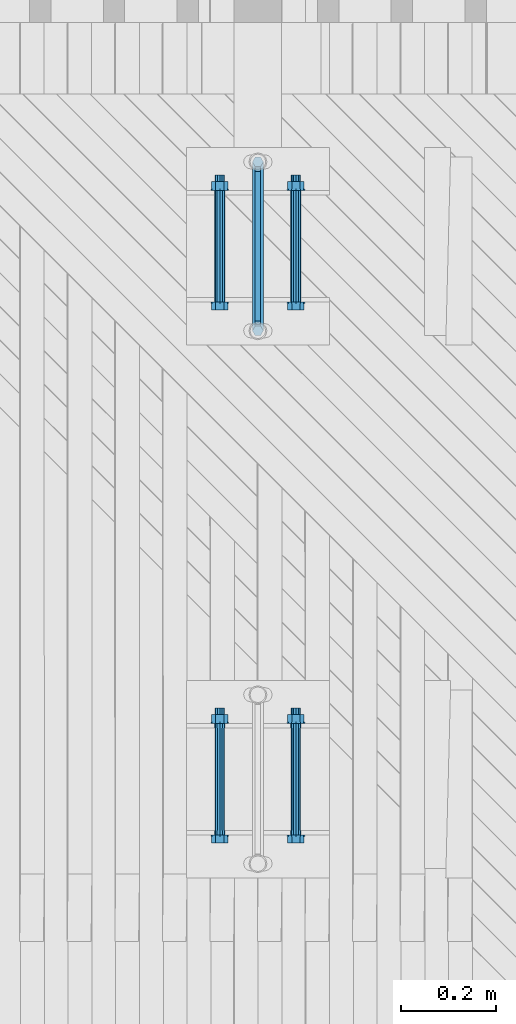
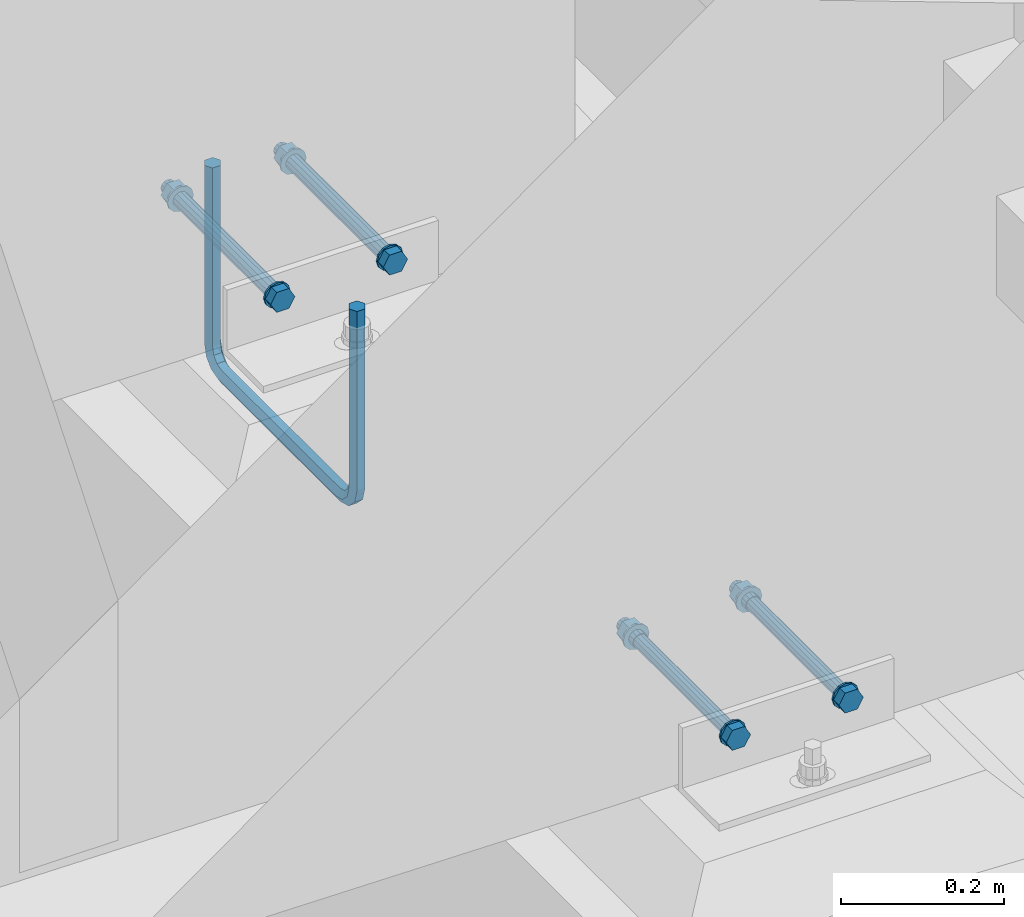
# One storey, part 3 of 52: 2 mechanical fasteners, 2 reinforcing bars.
"""IFC2X3 building model written with IfcOpenShell, lengths in millimetres."""

from ifc_helpers import new_model, si_unit, frame, origin_with_axes, place, context, subcontext, project, spatial, faceted_brep, source, transform, mapped, material, type_object, element, save


model = new_model("IFC2X3")

# Units and contexts
model_context = context("Model", 3, precision=1e-05, world=origin_with_axes())
body_context = subcontext(model_context, "Body", "Model", "MODEL_VIEW")
ifc_project = project(units=[si_unit("LENGTHUNIT", "METRE", prefix="MILLI"), si_unit("AREAUNIT", "SQUARE_METRE"), si_unit("VOLUMEUNIT", "CUBIC_METRE"), si_unit("MASSUNIT", "GRAM", prefix="KILO"), si_unit("TIMEUNIT", "SECOND"), si_unit("PLANEANGLEUNIT", "RADIAN"), si_unit("SOLIDANGLEUNIT", "STERADIAN"), si_unit("THERMODYNAMICTEMPERATUREUNIT", "DEGREE_CELSIUS"), si_unit("LUMINOUSINTENSITYUNIT", "LUMEN")], contexts=[model_context])

# Site, building, storey
site_placement = place(None, origin_with_axes())
site = spatial("IfcSite", under=ifc_project, at=site_placement, Name="Undefined", CompositionType="ELEMENT")
building_placement = place(site_placement, origin_with_axes())
building = spatial("IfcBuilding", under=site, at=building_placement, Name="Undefined", CompositionType="ELEMENT")
storey_placement = place(building_placement, origin_with_axes())
storey = spatial("IfcBuildingStorey", under=building, at=storey_placement, Name="Undefined", CompositionType="ELEMENT", Elevation=0.0)

# Reinforcing bars
ifc_material_1 = material(Name="A500HW")
shared_shape_1 = source(origin_with_axes(), body_context, "Body", "Brep", [
    faceted_brep([(9.95929214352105, -5.74999999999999, -1.31778448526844e-16), (9.95929214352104, 5.75000000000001, -1.31778448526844e-16), (-4.46864767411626e-15, 11.5, 5.31556664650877e-32), (-9.95929214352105, 5.75, 1.31778448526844e-16), (-9.95929214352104, -5.75, 1.31778448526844e-16), (0.0, -11.5, 0.0), (-9.95929214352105, -5.75, -268.5), (-3.5527136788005e-15, -11.5, -268.5), (-9.95929214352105, 5.75, -268.5), (-8.02136135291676e-15, 11.5, -268.5), (9.95929214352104, 5.75000000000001, -268.5), (9.95929214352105, -5.74999999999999, -268.5), (-4.40480021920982, -5.75, -289.229646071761), (4.22019978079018, -11.5, -284.25), (-4.40480021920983, 5.75, -289.229646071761), (4.22019978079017, 11.5, -284.25), (12.8451997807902, 5.75000000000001, -279.27035392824), (12.8451997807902, -5.74999999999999, -279.27035392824), (10.7703539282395, -5.75, -304.40480021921), (15.75, -11.5, -295.77980021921), (10.7703539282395, 5.75, -304.40480021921), (15.75, 11.5, -295.77980021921), (20.7296460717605, 5.75000000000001, -287.15480021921), (20.7296460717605, -5.74999999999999, -287.15480021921), (31.5, -5.75, -309.959292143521), (31.5, -11.5, -300.0), (31.5, 5.75, -309.959292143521), (31.5, 11.5, -300.0), (31.5, 5.75000000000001, -290.040707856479), (31.5, -5.74999999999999, -290.040707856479), (323.5, -5.75, -309.959292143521), (323.5, -11.5, -300.0), (323.5, 5.75, -309.959292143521), (323.5, 11.5, -300.0), (323.5, 5.75000000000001, -290.040707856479), (323.5, -5.74999999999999, -290.040707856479), (344.229646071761, -5.75, -304.40480021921), (339.25, -11.5, -295.77980021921), (344.229646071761, 5.75, -304.40480021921), (339.25, 11.5, -295.77980021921), (334.270353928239, 5.75000000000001, -287.15480021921), (334.270353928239, -5.74999999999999, -287.15480021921), (359.40480021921, -5.75, -289.229646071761), (350.77980021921, -11.5, -284.25), (359.40480021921, 5.75, -289.229646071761), (350.77980021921, 11.5, -284.25), (342.15480021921, 5.75000000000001, -279.27035392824), (342.15480021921, -5.74999999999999, -279.27035392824), (364.959292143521, -5.75, -268.5), (355.0, -11.5, -268.5), (364.959292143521, 5.75, -268.5), (355.0, 11.5, -268.5), (345.040707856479, 5.75000000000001, -268.5), (345.040707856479, -5.74999999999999, -268.5), (364.959292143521, -5.75, 0.0), (355.0, -11.5, 0.0), (364.959292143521, 5.75, 0.0), (355.0, 11.5, 0.0), (345.040707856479, 5.75000000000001, 0.0), (345.040707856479, -5.74999999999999, 0.0)], [[[0, 1, 2, 3, 4, 5]], [[5, 4, 6, 7]], [[4, 3, 8, 6]], [[3, 2, 9, 8]], [[2, 1, 10, 9]], [[1, 0, 11, 10]], [[0, 5, 7, 11]], [[7, 6, 12, 13]], [[6, 8, 14, 12]], [[8, 9, 15, 14]], [[9, 10, 16, 15]], [[10, 11, 17, 16]], [[11, 7, 13, 17]], [[13, 12, 18, 19]], [[12, 14, 20, 18]], [[14, 15, 21, 20]], [[15, 16, 22, 21]], [[16, 17, 23, 22]], [[17, 13, 19, 23]], [[19, 18, 24, 25]], [[18, 20, 26, 24]], [[20, 21, 27, 26]], [[21, 22, 28, 27]], [[22, 23, 29, 28]], [[23, 19, 25, 29]], [[25, 24, 30, 31]], [[24, 26, 32, 30]], [[26, 27, 33, 32]], [[27, 28, 34, 33]], [[28, 29, 35, 34]], [[29, 25, 31, 35]], [[31, 30, 36, 37]], [[30, 32, 38, 36]], [[32, 33, 39, 38]], [[33, 34, 40, 39]], [[34, 35, 41, 40]], [[35, 31, 37, 41]], [[37, 36, 42, 43]], [[36, 38, 44, 42]], [[38, 39, 45, 44]], [[39, 40, 46, 45]], [[40, 41, 47, 46]], [[41, 37, 43, 47]], [[43, 42, 48, 49]], [[42, 44, 50, 48]], [[44, 45, 51, 50]], [[45, 46, 52, 51]], [[46, 47, 53, 52]], [[47, 43, 49, 53]], [[49, 48, 54, 55]], [[48, 50, 56, 54]], [[50, 51, 57, 56]], [[51, 52, 58, 57]], [[52, 53, 59, 58]], [[53, 49, 55, 59]], [[55, 54, 56, 57, 58, 59]]]),
])
for number, where, z_axis, x_axis, name in (
    (1, (16000.0, 4222.50000000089, 1615.32999999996), (0.0, 0.0, 1.0), (0.0, -1.0, 0.0), "REBAR"),
    (2, (16000.0, 4222.50000000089, 1615.32999999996), (0.0, 0.0, 1.0), (0.0, -1.0, 0.0), "REBAR"),
):
    element("IfcReinforcingBar", number, at=place(storey_placement, frame(where, z_axis=z_axis, x_axis=x_axis)), inside=storey, material=ifc_material_1, Name=name, BarRole="NOTDEFINED", CrossSectionArea=0.0, NominalDiameter=23.0, context=body_context, shape_type="MappedRepresentation", body=[
        mapped(shared_shape_1, transform((0.0, 0.0, 420.0))),
    ])

# Mechanical fasteners
ifc_material_2 = material(Name="Undefined")
mechanical_fastener_type = type_object("IfcMechanicalFastenerType", Name="Bolt assembly")
shared_shape_2 = source(origin_with_axes(), body_context, "Body", "Brep", [
    faceted_brep([(17.3205080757, -238.7, 0.0), (8.66025403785, -238.7, 15.0000000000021), (-8.66025403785, -238.7, 15.0000000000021), (-17.3205080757, -238.7, 0.0), (-8.66025403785, -238.7, -15.0000000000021), (8.66025403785, -238.7, -15.0000000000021), (8.66025403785, -225.5, -15.0000000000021), (-8.66025403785, -225.5, -15.0000000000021), (-17.3205080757, -225.5, 0.0), (-8.66025403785, -225.5, 15.0000000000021), (8.66025403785, -225.5, 15.0000000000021), (17.3205080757, -225.5, 0.0), (10.0, -225.5, 0.0), (8.66025403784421, -225.5, 5.0000000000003), (4.9999999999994, -225.5, 8.66025403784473), (-1.03633598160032e-12, -225.5, 10.0), (-5.00000000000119, -225.5, 8.6602540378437), (-8.66025403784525, -225.5, 4.99999999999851), (-10.0, -225.5, -2.07267196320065e-12), (-8.66025403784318, -225.5, -5.00000000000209), (-4.99999999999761, -225.5, -8.66025403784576), (3.09790571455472e-12, -225.5, -10.0), (5.00000000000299, -225.5, -8.66025403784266), (8.66025403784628, -225.5, -4.99999999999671), (8.66025403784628, 44.5, -4.99999999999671), (5.00000000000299, 44.5, -8.66025403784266), (3.09790571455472e-12, 44.5, -10.0), (-4.99999999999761, 44.5, -8.66025403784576), (-8.66025403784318, 44.5, -5.00000000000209), (-10.0, 44.5, -2.07267196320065e-12), (-8.66025403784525, 44.5, 4.99999999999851), (-5.00000000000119, 44.5, 8.6602540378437), (-1.03633598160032e-12, 44.5, 10.0), (4.9999999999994, 44.5, 8.66025403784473), (8.66025403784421, 44.5, 5.0000000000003), (10.0, 44.5, 0.0), (18.5, -225.5, 0.0), (16.0214699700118, -225.5, 9.25000000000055), (9.2499999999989, -225.5, 16.0214699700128), (-1.9172215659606e-12, -225.5, 18.5), (-9.25000000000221, -225.5, 16.0214699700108), (-16.0214699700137, -225.5, 9.24999999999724), (-18.5, -225.5, -3.83444313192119e-12), (-16.0214699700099, -225.5, -9.25000000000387), (-9.24999999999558, -225.5, -16.0214699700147), (5.73112557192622e-12, -225.5, -18.5), (9.25000000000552, -225.5, -16.0214699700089), (16.0214699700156, -225.5, -9.24999999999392), (16.0214699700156, -222.5, -9.24999999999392), (9.25000000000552, -222.5, -16.0214699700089), (5.73112557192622e-12, -222.5, -18.5), (-9.24999999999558, -222.5, -16.0214699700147), (-16.0214699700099, -222.5, -9.25000000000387), (-18.5, -222.5, -3.83444313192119e-12), (-16.0214699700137, -222.5, 9.24999999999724), (-9.25000000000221, -222.5, 16.0214699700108), (-1.9172215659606e-12, -222.5, 18.5), (9.2499999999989, -222.5, 16.0214699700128), (16.0214699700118, -222.5, 9.25000000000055), (18.5, -222.5, 0.0), (18.5, 12.5, 0.0), (16.0214699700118, 12.5, 9.25000000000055), (9.2499999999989, 12.5, 16.0214699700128), (-1.9172215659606e-12, 12.5, 18.5), (-9.25000000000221, 12.5, 16.0214699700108), (-16.0214699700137, 12.5, 9.24999999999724), (-18.5, 12.5, -3.83444313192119e-12), (-16.0214699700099, 12.5, -9.25000000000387), (-9.24999999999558, 12.5, -16.0214699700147), (5.73112557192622e-12, 12.5, -18.5), (9.25000000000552, 12.5, -16.0214699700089), (16.0214699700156, 12.5, -9.24999999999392), (16.0214699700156, 15.5, -9.24999999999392), (9.25000000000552, 15.5, -16.0214699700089), (5.73112557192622e-12, 15.5, -18.5), (-9.24999999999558, 15.5, -16.0214699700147), (-16.0214699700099, 15.5, -9.25000000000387), (-18.5, 15.5, -3.83444313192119e-12), (-16.0214699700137, 15.5, 9.24999999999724), (-9.25000000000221, 15.5, 16.0214699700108), (-1.9172215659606e-12, 15.5, 18.5), (9.2499999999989, 15.5, 16.0214699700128), (16.0214699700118, 15.5, 9.25000000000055), (18.5, 15.5, 0.0), (17.3205080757, 15.5, 0.0), (8.66025403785, 15.5, 15.0000000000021), (-8.66025403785, 15.5, 15.0000000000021), (-17.3205080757, 15.5, 0.0), (-8.66025403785, 15.5, -15.0000000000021), (8.66025403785, 15.5, -15.0000000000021), (8.66025403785, 31.5, -15.0000000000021), (-8.66025403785, 31.5, -15.0000000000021), (-17.3205080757, 31.5, 0.0), (-8.66025403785, 31.5, 15.0000000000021), (8.66025403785, 31.5, 15.0000000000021), (17.3205080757, 31.5, 0.0)], [[[0, 1, 2, 3, 4, 5]], [[6, 7, 8, 9, 10, 11]], [[0, 11, 10, 1]], [[1, 10, 9, 2]], [[2, 9, 8, 3]], [[3, 8, 7, 4]], [[4, 7, 6, 5]], [[5, 6, 11, 0]], [[12, 13, 14, 15, 16, 17, 18, 19, 20, 21, 22, 23]], [[24, 25, 26, 27, 28, 29, 30, 31, 32, 33, 34, 35]], [[12, 35, 34, 13]], [[13, 34, 33, 14]], [[14, 33, 32, 15]], [[15, 32, 31, 16]], [[16, 31, 30, 17]], [[17, 30, 29, 18]], [[18, 29, 28, 19]], [[19, 28, 27, 20]], [[20, 27, 26, 21]], [[21, 26, 25, 22]], [[22, 25, 24, 23]], [[23, 24, 35, 12]], [[36, 37, 38, 39, 40, 41, 42, 43, 44, 45, 46, 47]], [[48, 49, 50, 51, 52, 53, 54, 55, 56, 57, 58, 59]], [[36, 59, 58, 37]], [[37, 58, 57, 38]], [[38, 57, 56, 39]], [[39, 56, 55, 40]], [[40, 55, 54, 41]], [[41, 54, 53, 42]], [[42, 53, 52, 43]], [[43, 52, 51, 44]], [[44, 51, 50, 45]], [[45, 50, 49, 46]], [[46, 49, 48, 47]], [[47, 48, 59, 36]], [[60, 61, 62, 63, 64, 65, 66, 67, 68, 69, 70, 71]], [[72, 73, 74, 75, 76, 77, 78, 79, 80, 81, 82, 83]], [[60, 83, 82, 61]], [[61, 82, 81, 62]], [[62, 81, 80, 63]], [[63, 80, 79, 64]], [[64, 79, 78, 65]], [[65, 78, 77, 66]], [[66, 77, 76, 67]], [[67, 76, 75, 68]], [[68, 75, 74, 69]], [[69, 74, 73, 70]], [[70, 73, 72, 71]], [[71, 72, 83, 60]], [[84, 85, 86, 87, 88, 89]], [[90, 91, 92, 93, 94, 95]], [[84, 95, 94, 85]], [[85, 94, 93, 86]], [[86, 93, 92, 87]], [[87, 92, 91, 88]], [[88, 91, 90, 89]], [[89, 90, 95, 84]]]),
    faceted_brep([(11.0, -222.4, 0.0), (9.52627944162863, -222.4, 5.50000000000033), (5.49999999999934, -222.4, 9.5262794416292), (-1.13996957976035e-12, -222.4, 11.0), (-5.50000000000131, -222.4, 9.52627944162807), (-9.52627944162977, -222.4, 5.49999999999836), (-11.0, -222.4, -2.27993915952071e-12), (-9.5262794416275, -222.4, -5.5000000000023), (-5.49999999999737, -222.4, -9.52627944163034), (3.40769628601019e-12, -222.4, -11.0), (5.50000000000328, -222.4, -9.52627944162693), (9.52627944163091, -222.4, -5.49999999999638), (9.52627944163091, -212.4, -5.49999999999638), (5.50000000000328, -212.4, -9.52627944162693), (3.40769628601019e-12, -212.4, -11.0), (-5.49999999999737, -212.4, -9.52627944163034), (-9.5262794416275, -212.4, -5.5000000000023), (-11.0, -212.4, -2.27993915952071e-12), (-9.52627944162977, -212.4, 5.49999999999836), (-5.50000000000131, -212.4, 9.52627944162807), (-1.13996957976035e-12, -212.4, 11.0), (5.49999999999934, -212.4, 9.5262794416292), (9.52627944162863, -212.4, 5.50000000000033), (11.0, -212.4, 0.0), (11.0, 2.4, 0.0), (9.52627944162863, 2.4, 5.50000000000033), (5.49999999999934, 2.4, 9.5262794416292), (-1.13996957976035e-12, 2.4, 11.0), (-5.50000000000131, 2.4, 9.52627944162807), (-9.52627944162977, 2.4, 5.49999999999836), (-11.0, 2.4, -2.27993915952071e-12), (-9.5262794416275, 2.4, -5.5000000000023), (-5.49999999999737, 2.4, -9.52627944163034), (3.40769628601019e-12, 2.4, -11.0), (5.50000000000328, 2.4, -9.52627944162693), (9.52627944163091, 2.4, -5.49999999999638), (9.52627944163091, 12.5, -5.49999999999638), (5.50000000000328, 12.5, -9.52627944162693), (3.40769628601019e-12, 12.5, -11.0), (-5.49999999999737, 12.5, -9.52627944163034), (-9.5262794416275, 12.5, -5.5000000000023), (-11.0, 12.5, -2.27993915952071e-12), (-9.52627944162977, 12.5, 5.49999999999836), (-5.50000000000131, 12.5, 9.52627944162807), (-1.13996957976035e-12, 12.5, 11.0), (5.49999999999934, 12.5, 9.5262794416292), (9.52627944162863, 12.5, 5.50000000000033), (11.0, 12.5, 0.0)], [[[0, 1, 2, 3, 4, 5, 6, 7, 8, 9, 10, 11]], [[12, 13, 14, 15, 16, 17, 18, 19, 20, 21, 22, 23]], [[0, 23, 22, 1]], [[1, 22, 21, 2]], [[2, 21, 20, 3]], [[3, 20, 19, 4]], [[4, 19, 18, 5]], [[5, 18, 17, 6]], [[6, 17, 16, 7]], [[7, 16, 15, 8]], [[8, 15, 14, 9]], [[9, 14, 13, 10]], [[10, 13, 12, 11]], [[11, 12, 23, 0]], [[24, 25, 26, 27, 28, 29, 30, 31, 32, 33, 34, 35]], [[36, 37, 38, 39, 40, 41, 42, 43, 44, 45, 46, 47]], [[24, 47, 46, 25]], [[25, 46, 45, 26]], [[26, 45, 44, 27]], [[27, 44, 43, 28]], [[28, 43, 42, 29]], [[29, 42, 41, 30]], [[30, 41, 40, 31]], [[31, 40, 39, 32]], [[32, 39, 38, 33]], [[33, 38, 37, 34]], [[34, 37, 36, 35]], [[35, 36, 47, 24]]]),
])
mechanical_fastener_1_placement = place(storey_placement, frame((16080.0, 3030.00000000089, 2067.33), z_axis=(0.0, 0.0, -1.0), x_axis=(-1.0, 0.0, 0.0)))
element("IfcMechanicalFastener", 3, at=mechanical_fastener_1_placement, inside=storey, type_object=mechanical_fastener_type, material=ifc_material_2, Name="Bolt assembly", NominalDiameter=20.0, NominalLength=270.0, context=body_context, shape_type="MappedRepresentation", body=[
    mapped(shared_shape_2, transform((0.0, 0.0, 0.0))),
    mapped(shared_shape_2, transform((160.0, 0.0, 0.0))),
])
shared_shape_3 = source(origin_with_axes(), body_context, "Body", "Brep", [
    faceted_brep([(17.3205080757, -238.7, 0.0), (8.66025403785, -238.7, 15.0000000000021), (-8.66025403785, -238.7, 15.0000000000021), (-17.3205080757, -238.7, 0.0), (-8.66025403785, -238.7, -15.0000000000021), (8.66025403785, -238.7, -15.0000000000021), (8.66025403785, -225.5, -15.0000000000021), (-8.66025403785, -225.5, -15.0000000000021), (-17.3205080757, -225.5, 0.0), (-8.66025403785, -225.5, 15.0000000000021), (8.66025403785, -225.5, 15.0000000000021), (17.3205080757, -225.5, 0.0), (10.0, -225.5, 0.0), (8.66025403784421, -225.5, 5.0000000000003), (4.9999999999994, -225.5, 8.66025403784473), (-1.03633598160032e-12, -225.5, 10.0), (-5.00000000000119, -225.5, 8.6602540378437), (-8.66025403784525, -225.5, 4.99999999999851), (-10.0, -225.5, -2.07267196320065e-12), (-8.66025403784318, -225.5, -5.00000000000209), (-4.99999999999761, -225.5, -8.66025403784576), (3.09790571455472e-12, -225.5, -10.0), (5.00000000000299, -225.5, -8.66025403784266), (8.66025403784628, -225.5, -4.99999999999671), (8.66025403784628, 44.5, -4.99999999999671), (5.00000000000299, 44.5, -8.66025403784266), (3.09790571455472e-12, 44.5, -10.0), (-4.99999999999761, 44.5, -8.66025403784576), (-8.66025403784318, 44.5, -5.00000000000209), (-10.0, 44.5, -2.07267196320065e-12), (-8.66025403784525, 44.5, 4.99999999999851), (-5.00000000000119, 44.5, 8.6602540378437), (-1.03633598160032e-12, 44.5, 10.0), (4.9999999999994, 44.5, 8.66025403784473), (8.66025403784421, 44.5, 5.0000000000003), (10.0, 44.5, 0.0), (18.5, -225.5, 0.0), (16.0214699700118, -225.5, 9.25000000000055), (9.2499999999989, -225.5, 16.0214699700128), (-1.9172215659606e-12, -225.5, 18.5), (-9.25000000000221, -225.5, 16.0214699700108), (-16.0214699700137, -225.5, 9.24999999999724), (-18.5, -225.5, -3.83444313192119e-12), (-16.0214699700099, -225.5, -9.25000000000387), (-9.24999999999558, -225.5, -16.0214699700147), (5.73112557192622e-12, -225.5, -18.5), (9.25000000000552, -225.5, -16.0214699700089), (16.0214699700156, -225.5, -9.24999999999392), (16.0214699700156, -222.5, -9.24999999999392), (9.25000000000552, -222.5, -16.0214699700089), (5.73112557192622e-12, -222.5, -18.5), (-9.24999999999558, -222.5, -16.0214699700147), (-16.0214699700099, -222.5, -9.25000000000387), (-18.5, -222.5, -3.83444313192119e-12), (-16.0214699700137, -222.5, 9.24999999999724), (-9.25000000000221, -222.5, 16.0214699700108), (-1.9172215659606e-12, -222.5, 18.5), (9.2499999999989, -222.5, 16.0214699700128), (16.0214699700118, -222.5, 9.25000000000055), (18.5, -222.5, 0.0), (18.5, 12.5, 0.0), (16.0214699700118, 12.5, 9.25000000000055), (9.2499999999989, 12.5, 16.0214699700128), (-1.9172215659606e-12, 12.5, 18.5), (-9.25000000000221, 12.5, 16.0214699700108), (-16.0214699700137, 12.5, 9.24999999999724), (-18.5, 12.5, -3.83444313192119e-12), (-16.0214699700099, 12.5, -9.25000000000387), (-9.24999999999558, 12.5, -16.0214699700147), (5.73112557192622e-12, 12.5, -18.5), (9.25000000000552, 12.5, -16.0214699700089), (16.0214699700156, 12.5, -9.24999999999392), (16.0214699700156, 15.5, -9.24999999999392), (9.25000000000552, 15.5, -16.0214699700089), (5.73112557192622e-12, 15.5, -18.5), (-9.24999999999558, 15.5, -16.0214699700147), (-16.0214699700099, 15.5, -9.25000000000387), (-18.5, 15.5, -3.83444313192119e-12), (-16.0214699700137, 15.5, 9.24999999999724), (-9.25000000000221, 15.5, 16.0214699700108), (-1.9172215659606e-12, 15.5, 18.5), (9.2499999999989, 15.5, 16.0214699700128), (16.0214699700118, 15.5, 9.25000000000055), (18.5, 15.5, 0.0), (17.3205080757, 15.5, 0.0), (8.66025403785, 15.5, 15.0000000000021), (-8.66025403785, 15.5, 15.0000000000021), (-17.3205080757, 15.5, 0.0), (-8.66025403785, 15.5, -15.0000000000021), (8.66025403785, 15.5, -15.0000000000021), (8.66025403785, 31.5, -15.0000000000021), (-8.66025403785, 31.5, -15.0000000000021), (-17.3205080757, 31.5, 0.0), (-8.66025403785, 31.5, 15.0000000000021), (8.66025403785, 31.5, 15.0000000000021), (17.3205080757, 31.5, 0.0)], [[[0, 1, 2, 3, 4, 5]], [[6, 7, 8, 9, 10, 11]], [[0, 11, 10, 1]], [[1, 10, 9, 2]], [[2, 9, 8, 3]], [[3, 8, 7, 4]], [[4, 7, 6, 5]], [[5, 6, 11, 0]], [[12, 13, 14, 15, 16, 17, 18, 19, 20, 21, 22, 23]], [[24, 25, 26, 27, 28, 29, 30, 31, 32, 33, 34, 35]], [[12, 35, 34, 13]], [[13, 34, 33, 14]], [[14, 33, 32, 15]], [[15, 32, 31, 16]], [[16, 31, 30, 17]], [[17, 30, 29, 18]], [[18, 29, 28, 19]], [[19, 28, 27, 20]], [[20, 27, 26, 21]], [[21, 26, 25, 22]], [[22, 25, 24, 23]], [[23, 24, 35, 12]], [[36, 37, 38, 39, 40, 41, 42, 43, 44, 45, 46, 47]], [[48, 49, 50, 51, 52, 53, 54, 55, 56, 57, 58, 59]], [[36, 59, 58, 37]], [[37, 58, 57, 38]], [[38, 57, 56, 39]], [[39, 56, 55, 40]], [[40, 55, 54, 41]], [[41, 54, 53, 42]], [[42, 53, 52, 43]], [[43, 52, 51, 44]], [[44, 51, 50, 45]], [[45, 50, 49, 46]], [[46, 49, 48, 47]], [[47, 48, 59, 36]], [[60, 61, 62, 63, 64, 65, 66, 67, 68, 69, 70, 71]], [[72, 73, 74, 75, 76, 77, 78, 79, 80, 81, 82, 83]], [[60, 83, 82, 61]], [[61, 82, 81, 62]], [[62, 81, 80, 63]], [[63, 80, 79, 64]], [[64, 79, 78, 65]], [[65, 78, 77, 66]], [[66, 77, 76, 67]], [[67, 76, 75, 68]], [[68, 75, 74, 69]], [[69, 74, 73, 70]], [[70, 73, 72, 71]], [[71, 72, 83, 60]], [[84, 85, 86, 87, 88, 89]], [[90, 91, 92, 93, 94, 95]], [[84, 95, 94, 85]], [[85, 94, 93, 86]], [[86, 93, 92, 87]], [[87, 92, 91, 88]], [[88, 91, 90, 89]], [[89, 90, 95, 84]]]),
    faceted_brep([(11.0, 2.4, 0.0), (9.52627944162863, 2.4, 5.50000000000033), (5.49999999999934, 2.4, 9.5262794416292), (-1.13996957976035e-12, 2.4, 11.0), (-5.50000000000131, 2.4, 9.52627944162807), (-9.52627944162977, 2.4, 5.49999999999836), (-11.0, 2.4, -2.27993915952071e-12), (-9.5262794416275, 2.4, -5.5000000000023), (-5.49999999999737, 2.4, -9.52627944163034), (3.40769628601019e-12, 2.4, -11.0), (5.50000000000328, 2.4, -9.52627944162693), (9.52627944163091, 2.4, -5.49999999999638), (9.52627944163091, 12.5, -5.49999999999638), (5.50000000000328, 12.5, -9.52627944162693), (3.40769628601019e-12, 12.5, -11.0), (-5.49999999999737, 12.5, -9.52627944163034), (-9.5262794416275, 12.5, -5.5000000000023), (-11.0, 12.5, -2.27993915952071e-12), (-9.52627944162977, 12.5, 5.49999999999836), (-5.50000000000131, 12.5, 9.52627944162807), (-1.13996957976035e-12, 12.5, 11.0), (5.49999999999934, 12.5, 9.5262794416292), (9.52627944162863, 12.5, 5.50000000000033), (11.0, 12.5, 0.0), (11.0, -212.500000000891, 0.0), (9.52627944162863, -212.500000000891, 5.50000000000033), (5.49999999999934, -212.500000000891, 9.5262794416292), (-1.13996957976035e-12, -212.500000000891, 11.0), (-5.50000000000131, -212.500000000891, 9.52627944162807), (-9.52627944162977, -212.500000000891, 5.49999999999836), (-11.0, -212.500000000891, -2.27993915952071e-12), (-9.5262794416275, -212.500000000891, -5.5000000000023), (-5.49999999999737, -212.500000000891, -9.52627944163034), (3.40769628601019e-12, -212.500000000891, -11.0), (5.50000000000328, -212.500000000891, -9.52627944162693), (9.52627944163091, -212.500000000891, -5.49999999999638), (9.52627944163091, 2.4999999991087, -5.49999999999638), (5.50000000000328, 2.4999999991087, -9.52627944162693), (3.40769628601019e-12, 2.4999999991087, -11.0), (-5.49999999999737, 2.4999999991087, -9.52627944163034), (-9.5262794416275, 2.4999999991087, -5.5000000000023), (-11.0, 2.4999999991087, -2.27993915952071e-12), (-9.52627944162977, 2.4999999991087, 5.49999999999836), (-5.50000000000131, 2.4999999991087, 9.52627944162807), (-1.13996957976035e-12, 2.4999999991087, 11.0), (5.49999999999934, 2.4999999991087, 9.5262794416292), (9.52627944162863, 2.4999999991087, 5.50000000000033), (11.0, 2.4999999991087, 0.0), (11.0, -222.4, 0.0), (9.52627944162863, -222.4, 5.50000000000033), (5.49999999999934, -222.4, 9.5262794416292), (-1.13996957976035e-12, -222.4, 11.0), (-5.50000000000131, -222.4, 9.52627944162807), (-9.52627944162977, -222.4, 5.49999999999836), (-11.0, -222.4, -2.27993915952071e-12), (-9.5262794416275, -222.4, -5.5000000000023), (-5.49999999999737, -222.4, -9.52627944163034), (3.40769628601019e-12, -222.4, -11.0), (5.50000000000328, -222.4, -9.52627944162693), (9.52627944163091, -222.4, -5.49999999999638), (9.52627944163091, -212.4, -5.49999999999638), (5.50000000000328, -212.4, -9.52627944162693), (3.40769628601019e-12, -212.4, -11.0), (-5.49999999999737, -212.4, -9.52627944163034), (-9.5262794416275, -212.4, -5.5000000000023), (-11.0, -212.4, -2.27993915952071e-12), (-9.52627944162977, -212.4, 5.49999999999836), (-5.50000000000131, -212.4, 9.52627944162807), (-1.13996957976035e-12, -212.4, 11.0), (5.49999999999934, -212.4, 9.5262794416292), (9.52627944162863, -212.4, 5.50000000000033), (11.0, -212.4, 0.0)], [[[0, 1, 2, 3, 4, 5, 6, 7, 8, 9, 10, 11]], [[12, 13, 14, 15, 16, 17, 18, 19, 20, 21, 22, 23]], [[0, 23, 22, 1]], [[1, 22, 21, 2]], [[2, 21, 20, 3]], [[3, 20, 19, 4]], [[4, 19, 18, 5]], [[5, 18, 17, 6]], [[6, 17, 16, 7]], [[7, 16, 15, 8]], [[8, 15, 14, 9]], [[9, 14, 13, 10]], [[10, 13, 12, 11]], [[11, 12, 23, 0]], [[24, 25, 26, 27, 28, 29, 30, 31, 32, 33, 34, 35]], [[36, 37, 38, 39, 40, 41, 42, 43, 44, 45, 46, 47]], [[24, 47, 46, 25]], [[25, 46, 45, 26]], [[26, 45, 44, 27]], [[27, 44, 43, 28]], [[28, 43, 42, 29]], [[29, 42, 41, 30]], [[30, 41, 40, 31]], [[31, 40, 39, 32]], [[32, 39, 38, 33]], [[33, 38, 37, 34]], [[34, 37, 36, 35]], [[35, 36, 47, 24]], [[48, 49, 50, 51, 52, 53, 54, 55, 56, 57, 58, 59]], [[60, 61, 62, 63, 64, 65, 66, 67, 68, 69, 70, 71]], [[48, 71, 70, 49]], [[49, 70, 69, 50]], [[50, 69, 68, 51]], [[51, 68, 67, 52]], [[52, 67, 66, 53]], [[53, 66, 65, 54]], [[54, 65, 64, 55]], [[55, 64, 63, 56]], [[56, 63, 62, 57]], [[57, 62, 61, 58]], [[58, 61, 60, 59]], [[59, 60, 71, 48]]]),
])
mechanical_fastener_2_placement = place(storey_placement, frame((16080.0, 4150.00000000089, 2045.33), z_axis=(0.0, 0.0, -1.0), x_axis=(-1.0, 0.0, 0.0)))
element("IfcMechanicalFastener", 4, at=mechanical_fastener_2_placement, inside=storey, type_object=mechanical_fastener_type, material=ifc_material_2, Name="Bolt assembly", NominalDiameter=20.0, NominalLength=270.0, context=body_context, shape_type="MappedRepresentation", body=[
    mapped(shared_shape_3, transform((0.0, 0.0, 0.0))),
    mapped(shared_shape_3, transform((160.0, 0.0, 0.0))),
])

save(model, "model.ifc")
